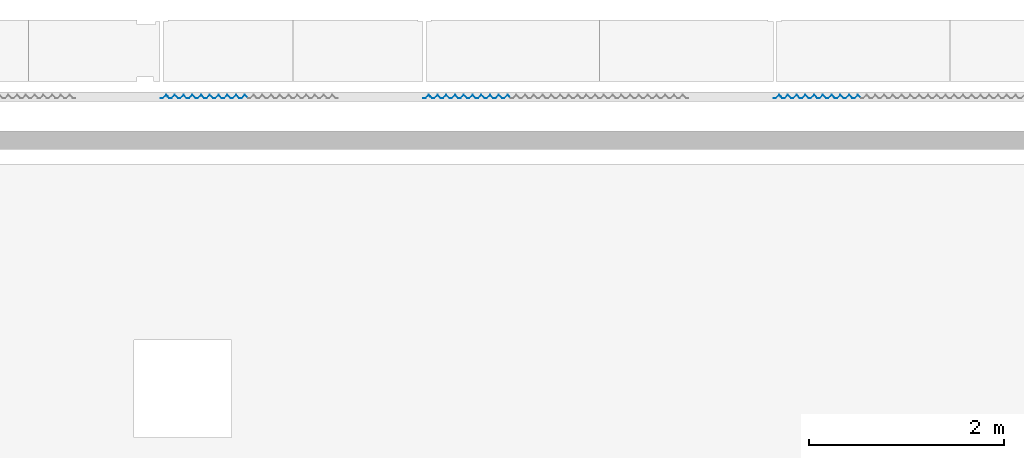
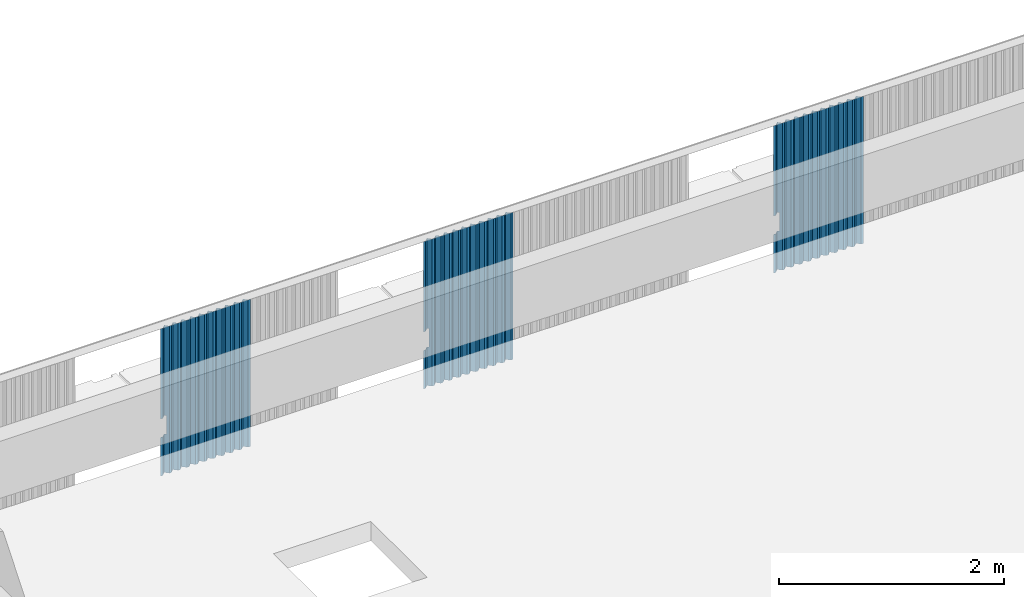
# One storey, part 30 of 37: 3 walls.
"""IFC4X3_ADD2 building model written with IfcOpenShell, lengths in millimetres."""

from ifc_helpers import new_model, si_unit, direction, frame, origin_with_axes, place, context, subcontext, project, spatial, polygons, element, save


model = new_model("IFC4X3_ADD2")

# Units and contexts
model_context = context("Model", 3, precision=1e-05, world=origin_with_axes(), true_north=direction((0.0, 1.0)))
body_context = subcontext(model_context, "Body", "Model", "MODEL_VIEW")
ifc_project = project(units=[si_unit("LENGTHUNIT", "METRE", prefix="MILLI"), si_unit("AREAUNIT", "SQUARE_METRE"), si_unit("VOLUMEUNIT", "CUBIC_METRE"), si_unit("PLANEANGLEUNIT", "RADIAN"), si_unit("TIMEUNIT", "SECOND"), si_unit("MASSUNIT", "GRAM")], contexts=[model_context])

# Site, building, storey
site_placement = place(None, origin_with_axes())
site = spatial("IfcSite", under=ifc_project, at=site_placement, Name="Site", CompositionType="ELEMENT")
building_placement = place(site_placement, origin_with_axes())
building = spatial("IfcBuilding", under=site, at=building_placement, Name="IFC Building Story")
storey_placement = place(building_placement, frame((0.0, 0.0, 14400.0), z_axis=(0.0, 0.0, 1.0), x_axis=(1.0, 0.0, 0.0)))
storey = spatial("IfcBuildingStorey", under=building, at=storey_placement, Name="040", Elevation=14400.0)

# Walls
wall_1_placement = place(storey_placement, frame((0.0, 0.0, -14400.0), z_axis=(0.0, 0.0, 1.0), x_axis=(1.0, 0.0, 0.0)))
element("IfcWall", 1, at=wall_1_placement, inside=storey, Name="BB_07.10_Gevelbekleding_PuntProfiel, 900 mm, console rechts_GMO:900 x 1600 mm", ObjectType="BB_07.10_Gevelbekleding_PuntProfiel, 900 mm, console rechts_GMO:900 x 1600 mm", PredefinedType="NOTDEFINED", context=body_context, shape_type="Tessellation", body=[
    polygons([(-27804.99999999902, 45734.99999999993, 14060.0), (-27804.99999999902, 45733.58578643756, 14060.0), (-27819.99999999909, 45748.58578643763, 14060.0), (-27853.58578643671, 45715.0, 14060.0), (-27876.4142135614, 45715.0, 14060.0), (-27875.99999999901, 45716.0, 14060.0), (-27853.9999999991, 45716.0, 14060.0), (-27819.99999999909, 45750.00000000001, 14060.0), (-27804.99999999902, 45734.99999999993, 13860.0), (-27804.99999999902, 45733.58578643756, 13860.0), (-27819.99999999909, 45750.0, 13860.0), (-27853.9999999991, 45715.99999999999, 13860.0), (-27875.99999999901, 45716.0, 13860.0), (-27876.4142135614, 45715.0, 13860.0), (-27853.58578643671, 45715.0, 13860.0), (-27819.99999999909, 45748.58578643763, 13860.0), (-27043.99999999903, 45716.0, 15040.0), (-27065.99999999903, 45716.0, 15040.0), (-27099.99999999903, 45750.0, 15040.0), (-27133.99999999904, 45716.0, 15040.0), (-27155.99999999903, 45716.0, 15040.0), (-27189.99999999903, 45750.0, 15040.0), (-27223.99999999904, 45716.0, 15040.0), (-27245.99999999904, 45716.0, 15040.0), (-27279.99999999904, 45750.00000000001, 15040.0), (-27313.99999999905, 45716.0, 15040.0), (-27335.99999999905, 45716.0, 15040.0), (-27369.99999999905, 45750.00000000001, 15040.0), (-27403.99999999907, 45716.0, 15040.0), (-27425.99999999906, 45716.0, 15040.0), (-27459.99999999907, 45750.00000000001, 15040.0), (-27493.99999999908, 45716.0, 15040.0), (-27515.99999999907, 45716.0, 15040.0), (-27549.99999999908, 45750.00000000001, 15040.0), (-27583.99999999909, 45716.0, 15040.0), (-27605.99999999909, 45716.0, 15040.0), (-27639.99999999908, 45750.00000000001, 15040.0), (-27673.99999999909, 45716.0, 15040.0), (-27695.99999999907, 45716.0, 15040.0), (-27729.99999999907, 45750.00000000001, 15040.0), (-27763.99999999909, 45716.0, 15040.0), (-27785.99999999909, 45716.0, 15040.0), (-27819.99999999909, 45750.00000000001, 15040.0), (-27853.9999999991, 45716.0, 15040.0), (-27875.99999999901, 45716.0, 15040.0), (-27876.4142135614, 45715.00000000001, 15040.0), (-27853.58578643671, 45715.00000000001, 15040.0), (-27819.99999999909, 45748.58578643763, 15040.0), (-27786.41421356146, 45715.00000000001, 15040.0), (-27763.5857864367, 45715.00000000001, 15040.0), (-27729.99999999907, 45748.58578643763, 15040.0), (-27696.41421356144, 45715.00000000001, 15040.0), (-27673.58578643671, 45715.00000000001, 15040.0), (-27639.99999999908, 45748.58578643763, 15040.0), (-27606.41421356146, 45715.00000000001, 15040.0), (-27583.5857864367, 45715.00000000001, 15040.0), (-27549.99999999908, 45748.58578643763, 15040.0), (-27516.41421356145, 45715.00000000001, 15040.0), (-27493.58578643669, 45715.00000000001, 15040.0), (-27459.99999999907, 45748.58578643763, 15040.0), (-27426.41421356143, 45715.00000000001, 15040.0), (-27403.58578643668, 45715.00000000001, 15040.0), (-27369.99999999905, 45748.58578643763, 15040.0), (-27336.41421356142, 45715.00000000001, 15040.0), (-27313.58578643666, 45715.00000000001, 15040.0), (-27279.99999999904, 45748.58578643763, 15040.0), (-27246.41421356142, 45715.00000000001, 15040.0), (-27223.58578643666, 45715.00000000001, 15040.0), (-27189.99999999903, 45748.58578643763, 15040.0), (-27156.41421356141, 45715.0, 15040.0), (-27133.58578643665, 45715.0, 15040.0), (-27099.99999999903, 45748.58578643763, 15040.0), (-27066.41421356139, 45715.0, 15040.0), (-27043.58578643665, 45715.0, 15040.0), (-27009.99999999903, 45748.58578643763, 15040.0), (-26976.41421356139, 45715.0, 15040.0), (-26953.58578643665, 45715.0, 15040.0), (-26953.99999999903, 45716.0, 15040.0), (-26975.99999999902, 45716.0, 15040.0), (-27009.99999999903, 45750.0, 15040.0), (-27043.99999999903, 45716.0, 13440.0), (-27009.99999999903, 45750.0, 13440.0), (-26975.99999999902, 45716.0, 13440.0), (-26953.99999999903, 45716.0, 13440.0), (-26953.58578643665, 45715.0, 13440.0), (-26976.41421356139, 45715.0, 13440.0), (-27009.99999999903, 45748.58578643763, 13440.0), (-27043.58578643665, 45715.0, 13440.0), (-27066.41421356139, 45715.0, 13440.0), (-27099.99999999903, 45748.58578643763, 13440.0), (-27133.58578643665, 45715.0, 13440.0), (-27156.41421356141, 45715.0, 13440.0), (-27189.99999999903, 45748.58578643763, 13440.0), (-27223.58578643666, 45715.00000000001, 13440.0), (-27246.41421356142, 45715.00000000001, 13440.0), (-27279.99999999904, 45748.58578643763, 13440.0), (-27313.58578643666, 45715.00000000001, 13440.0), (-27336.41421356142, 45715.00000000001, 13440.0), (-27369.99999999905, 45748.58578643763, 13440.0), (-27403.58578643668, 45715.00000000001, 13440.0), (-27426.41421356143, 45715.00000000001, 13440.0), (-27459.99999999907, 45748.58578643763, 13440.0), (-27493.58578643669, 45715.00000000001, 13440.0), (-27516.41421356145, 45715.00000000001, 13440.0), (-27549.99999999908, 45748.58578643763, 13440.0), (-27583.5857864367, 45715.00000000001, 13440.0), (-27606.41421356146, 45715.00000000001, 13440.0), (-27639.99999999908, 45748.58578643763, 13440.0), (-27673.58578643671, 45715.00000000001, 13440.0), (-27696.41421356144, 45715.00000000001, 13440.0), (-27729.99999999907, 45748.58578643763, 13440.0), (-27763.5857864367, 45715.00000000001, 13440.0), (-27786.41421356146, 45715.00000000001, 13440.0), (-27819.99999999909, 45748.58578643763, 13440.0), (-27853.58578643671, 45715.00000000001, 13440.0), (-27876.4142135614, 45715.00000000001, 13440.0), (-27875.99999999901, 45716.0, 13440.0), (-27853.9999999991, 45716.0, 13440.0), (-27819.99999999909, 45750.00000000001, 13440.0), (-27785.99999999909, 45716.0, 13440.0), (-27763.99999999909, 45716.0, 13440.0), (-27729.99999999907, 45750.00000000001, 13440.0), (-27695.99999999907, 45716.0, 13440.0), (-27673.99999999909, 45716.0, 13440.0), (-27639.99999999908, 45750.00000000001, 13440.0), (-27605.99999999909, 45716.0, 13440.0), (-27583.99999999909, 45716.0, 13440.0), (-27549.99999999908, 45750.00000000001, 13440.0), (-27515.99999999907, 45716.0, 13440.0), (-27493.99999999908, 45716.0, 13440.0), (-27459.99999999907, 45750.00000000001, 13440.0), (-27425.99999999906, 45716.0, 13440.0), (-27403.99999999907, 45716.0, 13440.0), (-27369.99999999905, 45750.00000000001, 13440.0), (-27335.99999999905, 45716.0, 13440.0), (-27313.99999999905, 45716.0, 13440.0), (-27279.99999999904, 45750.00000000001, 13440.0), (-27245.99999999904, 45716.0, 13440.0), (-27223.99999999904, 45716.0, 13440.0), (-27189.99999999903, 45750.0, 13440.0), (-27155.99999999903, 45716.0, 13440.0), (-27133.99999999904, 45716.0, 13440.0), (-27099.99999999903, 45750.0, 13440.0), (-27065.99999999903, 45716.0, 13440.0)], [[[7, 8, 3]], [[7, 3, 4]], [[4, 5, 6]], [[4, 6, 7]], [[8, 1, 2]], [[8, 2, 3]], [[2, 1, 9, 10]], [[12, 13, 14]], [[12, 14, 15]], [[16, 10, 9]], [[16, 9, 11]], [[11, 12, 15]], [[11, 15, 16]], [[44, 45, 46]], [[44, 46, 47]], [[48, 49, 42]], [[48, 42, 43]], [[43, 44, 47]], [[43, 47, 48]], [[49, 50, 41]], [[49, 41, 42]], [[51, 52, 39]], [[51, 39, 40]], [[40, 41, 50]], [[40, 50, 51]], [[52, 53, 38]], [[52, 38, 39]], [[54, 55, 36]], [[54, 36, 37]], [[37, 38, 53]], [[37, 53, 54]], [[55, 56, 35]], [[55, 35, 36]], [[57, 58, 33]], [[57, 33, 34]], [[34, 35, 56]], [[34, 56, 57]], [[58, 59, 32]], [[58, 32, 33]], [[60, 61, 30]], [[60, 30, 31]], [[31, 32, 59]], [[31, 59, 60]], [[61, 62, 29]], [[61, 29, 30]], [[63, 64, 27]], [[63, 27, 28]], [[28, 29, 62]], [[28, 62, 63]], [[64, 65, 26]], [[64, 26, 27]], [[66, 67, 24]], [[66, 24, 25]], [[25, 26, 65]], [[25, 65, 66]], [[67, 68, 23]], [[67, 23, 24]], [[69, 70, 21]], [[69, 21, 22]], [[22, 23, 68]], [[22, 68, 69]], [[70, 71, 20]], [[70, 20, 21]], [[72, 73, 18]], [[72, 18, 19]], [[19, 20, 71]], [[19, 71, 72]], [[73, 74, 17]], [[73, 17, 18]], [[79, 80, 75]], [[79, 75, 76]], [[76, 77, 78]], [[76, 78, 79]], [[80, 17, 74]], [[80, 74, 75]], [[83, 84, 85]], [[83, 85, 86]], [[87, 88, 81]], [[87, 81, 82]], [[82, 83, 86]], [[82, 86, 87]], [[118, 119, 114]], [[118, 114, 115]], [[115, 116, 117]], [[115, 117, 118]], [[121, 122, 111]], [[121, 111, 112]], [[112, 113, 120]], [[112, 120, 121]], [[113, 114, 119]], [[113, 119, 120]], [[124, 125, 108]], [[124, 108, 109]], [[109, 110, 123]], [[109, 123, 124]], [[110, 111, 122]], [[110, 122, 123]], [[127, 128, 105]], [[127, 105, 106]], [[106, 107, 126]], [[106, 126, 127]], [[107, 108, 125]], [[107, 125, 126]], [[130, 131, 102]], [[130, 102, 103]], [[103, 104, 129]], [[103, 129, 130]], [[104, 105, 128]], [[104, 128, 129]], [[133, 134, 99]], [[133, 99, 100]], [[100, 101, 132]], [[100, 132, 133]], [[101, 102, 131]], [[101, 131, 132]], [[136, 137, 96]], [[136, 96, 97]], [[97, 98, 135]], [[97, 135, 136]], [[98, 99, 134]], [[98, 134, 135]], [[139, 140, 93]], [[139, 93, 94]], [[94, 95, 138]], [[94, 138, 139]], [[95, 96, 137]], [[95, 137, 138]], [[142, 143, 90]], [[142, 90, 91]], [[91, 92, 141]], [[91, 141, 142]], [[92, 93, 140]], [[92, 140, 141]], [[144, 81, 88]], [[144, 88, 89]], [[89, 90, 143]], [[89, 143, 144]], [[18, 17, 81, 144]], [[19, 18, 144, 143]], [[20, 19, 143, 142]], [[21, 20, 142, 141]], [[22, 21, 141, 140]], [[23, 22, 140, 139]], [[24, 23, 139, 138]], [[25, 24, 138, 137]], [[26, 25, 137, 136]], [[27, 26, 136, 135]], [[28, 27, 135, 134]], [[29, 28, 134, 133]], [[30, 29, 133, 132]], [[31, 30, 132, 131]], [[32, 31, 131, 130]], [[33, 32, 130, 129]], [[34, 33, 129, 128]], [[35, 34, 128, 127]], [[36, 35, 127, 126]], [[37, 36, 126, 125]], [[38, 37, 125, 124]], [[54, 53, 109, 108]], [[55, 54, 108, 107]], [[56, 55, 107, 106]], [[57, 56, 106, 105]], [[58, 57, 105, 104]], [[59, 58, 104, 103]], [[60, 59, 103, 102]], [[61, 60, 102, 101]], [[62, 61, 101, 100]], [[63, 62, 100, 99]], [[64, 63, 99, 98]], [[65, 64, 98, 97]], [[66, 65, 97, 96]], [[67, 66, 96, 95]], [[68, 67, 95, 94]], [[69, 68, 94, 93]], [[70, 69, 93, 92]], [[71, 70, 92, 91]], [[72, 71, 91, 90]], [[73, 72, 90, 89]], [[74, 73, 89, 88]], [[80, 79, 83, 82]], [[17, 80, 82, 81]], [[39, 38, 124, 123]], [[40, 39, 123, 122]], [[41, 40, 122, 121]], [[42, 41, 121, 120]], [[1, 8, 43]], [[1, 43, 42]], [[42, 9, 1]], [[42, 120, 9]], [[120, 119, 11]], [[120, 11, 9]], [[44, 43, 8, 7]], [[45, 44, 7, 6]], [[47, 46, 5, 4]], [[48, 47, 4, 3]], [[10, 16, 114]], [[10, 114, 113]], [[113, 2, 10]], [[2, 113, 49]], [[49, 48, 2]], [[48, 3, 2]], [[50, 49, 113, 112]], [[51, 50, 112, 111]], [[52, 51, 111, 110]], [[53, 52, 110, 109]], [[75, 74, 88, 87]], [[76, 75, 87, 86]], [[46, 45, 6, 5]], [[77, 76, 86, 85]], [[78, 77, 85, 84]], [[79, 78, 84, 83]], [[117, 116, 14, 13]], [[115, 114, 16, 15]], [[116, 115, 15, 14]], [[118, 117, 13, 12]], [[119, 118, 12, 11]]]),
])
wall_2_placement = place(storey_placement, frame((0.0, 0.0, -14400.0), z_axis=(0.0, 0.0, 1.0), x_axis=(1.0, 0.0, 0.0)))
element("IfcWall", 2, at=wall_2_placement, inside=storey, Name="BB_07.10_Gevelbekleding_PuntProfiel, 900 mm, console rechts_GMO:900 x 1600 mm", ObjectType="BB_07.10_Gevelbekleding_PuntProfiel, 900 mm, console rechts_GMO:900 x 1600 mm", PredefinedType="NOTDEFINED", context=body_context, shape_type="Tessellation", body=[
    polygons([(-25104.99999999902, 45734.99999999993, 14060.0), (-25104.99999999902, 45733.58578643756, 14060.0), (-25119.99999999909, 45748.58578643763, 14060.0), (-25153.58578643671, 45715.0, 14060.0), (-25176.4142135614, 45715.00000000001, 14060.0), (-25175.99999999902, 45716.0, 14060.0), (-25153.9999999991, 45715.99999999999, 14060.0), (-25119.99999999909, 45750.0, 14060.0), (-25104.99999999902, 45734.99999999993, 13860.0), (-25104.99999999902, 45733.58578643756, 13860.0), (-25119.99999999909, 45750.00000000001, 13860.0), (-25153.9999999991, 45716.0, 13860.0), (-25175.99999999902, 45716.0, 13860.0), (-25176.4142135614, 45715.0, 13860.0), (-25153.58578643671, 45715.0, 13860.0), (-25119.99999999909, 45748.58578643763, 13860.0), (-24343.99999999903, 45716.0, 15040.0), (-24365.99999999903, 45716.0, 15040.0), (-24399.99999999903, 45750.0, 15040.0), (-24433.99999999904, 45716.0, 15040.0), (-24455.99999999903, 45716.0, 15040.0), (-24489.99999999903, 45750.0, 15040.0), (-24523.99999999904, 45716.0, 15040.0), (-24545.99999999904, 45716.0, 15040.0), (-24579.99999999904, 45750.00000000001, 15040.0), (-24613.99999999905, 45716.0, 15040.0), (-24635.99999999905, 45716.0, 15040.0), (-24669.99999999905, 45750.00000000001, 15040.0), (-24703.99999999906, 45716.0, 15040.0), (-24725.99999999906, 45716.0, 15040.0), (-24759.99999999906, 45750.00000000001, 15040.0), (-24793.99999999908, 45716.0, 15040.0), (-24815.99999999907, 45716.0, 15040.0), (-24849.99999999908, 45750.00000000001, 15040.0), (-24883.99999999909, 45716.0, 15040.0), (-24905.99999999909, 45716.0, 15040.0), (-24939.99999999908, 45750.00000000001, 15040.0), (-24973.9999999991, 45716.0, 15040.0), (-24995.99999999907, 45716.0, 15040.0), (-25029.99999999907, 45750.00000000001, 15040.0), (-25063.99999999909, 45716.0, 15040.0), (-25085.99999999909, 45716.0, 15040.0), (-25119.99999999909, 45750.00000000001, 15040.0), (-25153.9999999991, 45716.0, 15040.0), (-25175.99999999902, 45716.0, 15040.0), (-25176.4142135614, 45715.00000000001, 15040.0), (-25153.58578643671, 45715.00000000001, 15040.0), (-25119.99999999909, 45748.58578643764, 15040.0), (-25086.41421356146, 45715.00000000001, 15040.0), (-25063.5857864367, 45715.00000000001, 15040.0), (-25029.99999999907, 45748.58578643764, 15040.0), (-24996.41421356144, 45715.00000000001, 15040.0), (-24973.58578643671, 45715.00000000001, 15040.0), (-24939.99999999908, 45748.58578643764, 15040.0), (-24906.41421356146, 45715.00000000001, 15040.0), (-24883.5857864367, 45715.00000000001, 15040.0), (-24849.99999999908, 45748.58578643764, 15040.0), (-24816.41421356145, 45715.00000000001, 15040.0), (-24793.58578643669, 45715.00000000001, 15040.0), (-24759.99999999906, 45748.58578643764, 15040.0), (-24726.41421356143, 45715.00000000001, 15040.0), (-24703.58578643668, 45715.00000000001, 15040.0), (-24669.99999999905, 45748.58578643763, 15040.0), (-24636.41421356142, 45715.00000000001, 15040.0), (-24613.58578643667, 45715.00000000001, 15040.0), (-24579.99999999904, 45748.58578643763, 15040.0), (-24546.41421356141, 45715.00000000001, 15040.0), (-24523.58578643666, 45715.00000000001, 15040.0), (-24489.99999999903, 45748.58578643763, 15040.0), (-24456.41421356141, 45715.0, 15040.0), (-24433.58578643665, 45715.0, 15040.0), (-24399.99999999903, 45748.58578643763, 15040.0), (-24366.41421356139, 45715.0, 15040.0), (-24343.58578643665, 45715.0, 15040.0), (-24309.99999999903, 45748.58578643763, 15040.0), (-24276.4142135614, 45715.0, 15040.0), (-24253.58578643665, 45715.0, 15040.0), (-24253.99999999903, 45716.0, 15040.0), (-24275.99999999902, 45716.0, 15040.0), (-24309.99999999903, 45750.0, 15040.0), (-24343.99999999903, 45716.0, 13440.0), (-24309.99999999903, 45750.0, 13440.0), (-24275.99999999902, 45716.0, 13440.0), (-24253.99999999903, 45716.0, 13440.0), (-24253.58578643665, 45715.0, 13440.0), (-24276.4142135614, 45715.0, 13440.0), (-24309.99999999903, 45748.58578643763, 13440.0), (-24343.58578643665, 45715.0, 13440.0), (-24366.41421356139, 45715.0, 13440.0), (-24399.99999999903, 45748.58578643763, 13440.0), (-24433.58578643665, 45715.0, 13440.0), (-24456.41421356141, 45715.0, 13440.0), (-24489.99999999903, 45748.58578643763, 13440.0), (-24523.58578643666, 45715.00000000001, 13440.0), (-24546.41421356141, 45715.00000000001, 13440.0), (-24579.99999999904, 45748.58578643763, 13440.0), (-24613.58578643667, 45715.00000000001, 13440.0), (-24636.41421356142, 45715.00000000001, 13440.0), (-24669.99999999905, 45748.58578643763, 13440.0), (-24703.58578643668, 45715.00000000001, 13440.0), (-24726.41421356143, 45715.00000000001, 13440.0), (-24759.99999999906, 45748.58578643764, 13440.0), (-24793.58578643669, 45715.00000000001, 13440.0), (-24816.41421356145, 45715.00000000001, 13440.0), (-24849.99999999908, 45748.58578643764, 13440.0), (-24883.5857864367, 45715.00000000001, 13440.0), (-24906.41421356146, 45715.00000000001, 13440.0), (-24939.99999999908, 45748.58578643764, 13440.0), (-24973.58578643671, 45715.00000000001, 13440.0), (-24996.41421356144, 45715.00000000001, 13440.0), (-25029.99999999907, 45748.58578643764, 13440.0), (-25063.5857864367, 45715.00000000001, 13440.0), (-25086.41421356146, 45715.00000000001, 13440.0), (-25119.99999999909, 45748.58578643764, 13440.0), (-25153.58578643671, 45715.00000000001, 13440.0), (-25176.4142135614, 45715.00000000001, 13440.0), (-25175.99999999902, 45716.0, 13440.0), (-25153.9999999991, 45716.0, 13440.0), (-25119.99999999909, 45750.00000000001, 13440.0), (-25085.99999999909, 45716.0, 13440.0), (-25063.99999999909, 45716.0, 13440.0), (-25029.99999999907, 45750.00000000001, 13440.0), (-24995.99999999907, 45716.0, 13440.0), (-24973.9999999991, 45716.0, 13440.0), (-24939.99999999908, 45750.00000000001, 13440.0), (-24905.99999999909, 45716.0, 13440.0), (-24883.99999999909, 45716.0, 13440.0), (-24849.99999999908, 45750.00000000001, 13440.0), (-24815.99999999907, 45716.0, 13440.0), (-24793.99999999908, 45716.0, 13440.0), (-24759.99999999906, 45750.00000000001, 13440.0), (-24725.99999999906, 45716.0, 13440.0), (-24703.99999999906, 45716.0, 13440.0), (-24669.99999999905, 45750.00000000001, 13440.0), (-24635.99999999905, 45716.0, 13440.0), (-24613.99999999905, 45716.0, 13440.0), (-24579.99999999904, 45750.00000000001, 13440.0), (-24545.99999999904, 45716.0, 13440.0), (-24523.99999999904, 45716.0, 13440.0), (-24489.99999999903, 45750.0, 13440.0), (-24455.99999999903, 45716.0, 13440.0), (-24433.99999999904, 45716.0, 13440.0), (-24399.99999999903, 45750.0, 13440.0), (-24365.99999999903, 45716.0, 13440.0)], [[[7, 8, 3]], [[7, 3, 4]], [[4, 5, 6]], [[4, 6, 7]], [[8, 1, 2]], [[8, 2, 3]], [[2, 1, 9, 10]], [[12, 13, 14]], [[12, 14, 15]], [[16, 10, 9]], [[16, 9, 11]], [[11, 12, 15]], [[11, 15, 16]], [[44, 45, 46]], [[44, 46, 47]], [[48, 49, 42]], [[48, 42, 43]], [[43, 44, 47]], [[43, 47, 48]], [[49, 50, 41]], [[49, 41, 42]], [[51, 52, 39]], [[51, 39, 40]], [[40, 41, 50]], [[40, 50, 51]], [[52, 53, 38]], [[52, 38, 39]], [[54, 55, 36]], [[54, 36, 37]], [[37, 38, 53]], [[37, 53, 54]], [[55, 56, 35]], [[55, 35, 36]], [[57, 58, 33]], [[57, 33, 34]], [[34, 35, 56]], [[34, 56, 57]], [[58, 59, 32]], [[58, 32, 33]], [[60, 61, 30]], [[60, 30, 31]], [[31, 32, 59]], [[31, 59, 60]], [[61, 62, 29]], [[61, 29, 30]], [[63, 64, 27]], [[63, 27, 28]], [[28, 29, 62]], [[28, 62, 63]], [[64, 65, 26]], [[64, 26, 27]], [[66, 67, 24]], [[66, 24, 25]], [[25, 26, 65]], [[25, 65, 66]], [[67, 68, 23]], [[67, 23, 24]], [[69, 70, 21]], [[69, 21, 22]], [[22, 23, 68]], [[22, 68, 69]], [[70, 71, 20]], [[70, 20, 21]], [[72, 73, 18]], [[72, 18, 19]], [[19, 20, 71]], [[19, 71, 72]], [[73, 74, 17]], [[73, 17, 18]], [[79, 80, 75]], [[79, 75, 76]], [[76, 77, 78]], [[76, 78, 79]], [[80, 17, 74]], [[80, 74, 75]], [[83, 84, 85]], [[83, 85, 86]], [[87, 88, 81]], [[87, 81, 82]], [[82, 83, 86]], [[82, 86, 87]], [[118, 119, 114]], [[118, 114, 115]], [[115, 116, 117]], [[115, 117, 118]], [[121, 122, 111]], [[121, 111, 112]], [[112, 113, 120]], [[112, 120, 121]], [[113, 114, 119]], [[113, 119, 120]], [[124, 125, 108]], [[124, 108, 109]], [[109, 110, 123]], [[109, 123, 124]], [[110, 111, 122]], [[110, 122, 123]], [[127, 128, 105]], [[127, 105, 106]], [[106, 107, 126]], [[106, 126, 127]], [[107, 108, 125]], [[107, 125, 126]], [[130, 131, 102]], [[130, 102, 103]], [[103, 104, 129]], [[103, 129, 130]], [[104, 105, 128]], [[104, 128, 129]], [[133, 134, 99]], [[133, 99, 100]], [[100, 101, 132]], [[100, 132, 133]], [[101, 102, 131]], [[101, 131, 132]], [[136, 137, 96]], [[136, 96, 97]], [[97, 98, 135]], [[97, 135, 136]], [[98, 99, 134]], [[98, 134, 135]], [[139, 140, 93]], [[139, 93, 94]], [[94, 95, 138]], [[94, 138, 139]], [[95, 96, 137]], [[95, 137, 138]], [[142, 143, 90]], [[142, 90, 91]], [[91, 92, 141]], [[91, 141, 142]], [[92, 93, 140]], [[92, 140, 141]], [[144, 81, 88]], [[144, 88, 89]], [[89, 90, 143]], [[89, 143, 144]], [[18, 17, 81, 144]], [[19, 18, 144, 143]], [[20, 19, 143, 142]], [[21, 20, 142, 141]], [[22, 21, 141, 140]], [[23, 22, 140, 139]], [[24, 23, 139, 138]], [[25, 24, 138, 137]], [[26, 25, 137, 136]], [[27, 26, 136, 135]], [[28, 27, 135, 134]], [[29, 28, 134, 133]], [[30, 29, 133, 132]], [[31, 30, 132, 131]], [[32, 31, 131, 130]], [[33, 32, 130, 129]], [[34, 33, 129, 128]], [[35, 34, 128, 127]], [[36, 35, 127, 126]], [[37, 36, 126, 125]], [[38, 37, 125, 124]], [[54, 53, 109, 108]], [[55, 54, 108, 107]], [[56, 55, 107, 106]], [[57, 56, 106, 105]], [[58, 57, 105, 104]], [[59, 58, 104, 103]], [[60, 59, 103, 102]], [[61, 60, 102, 101]], [[62, 61, 101, 100]], [[63, 62, 100, 99]], [[64, 63, 99, 98]], [[65, 64, 98, 97]], [[66, 65, 97, 96]], [[67, 66, 96, 95]], [[68, 67, 95, 94]], [[69, 68, 94, 93]], [[70, 69, 93, 92]], [[71, 70, 92, 91]], [[72, 71, 91, 90]], [[73, 72, 90, 89]], [[74, 73, 89, 88]], [[80, 79, 83, 82]], [[17, 80, 82, 81]], [[39, 38, 124, 123]], [[40, 39, 123, 122]], [[41, 40, 122, 121]], [[42, 41, 121, 120]], [[1, 8, 43]], [[1, 43, 42]], [[42, 9, 1]], [[42, 120, 9]], [[120, 119, 11]], [[120, 11, 9]], [[44, 43, 8, 7]], [[45, 44, 7, 6]], [[47, 46, 5, 4]], [[48, 47, 4, 3]], [[10, 16, 114]], [[10, 114, 113]], [[113, 2, 10]], [[2, 113, 49]], [[49, 48, 2]], [[48, 3, 2]], [[50, 49, 113, 112]], [[51, 50, 112, 111]], [[52, 51, 111, 110]], [[53, 52, 110, 109]], [[75, 74, 88, 87]], [[76, 75, 87, 86]], [[46, 45, 6, 5]], [[77, 76, 86, 85]], [[78, 77, 85, 84]], [[79, 78, 84, 83]], [[117, 116, 14, 13]], [[115, 114, 16, 15]], [[116, 115, 15, 14]], [[118, 117, 13, 12]], [[119, 118, 12, 11]]]),
])
wall_3_placement = place(storey_placement, frame((0.0, 0.0, -14400.0), z_axis=(0.0, 0.0, 1.0), x_axis=(1.0, 0.0, 0.0)))
element("IfcWall", 3, at=wall_3_placement, inside=storey, Name="BB_07.10_Gevelbekleding_PuntProfiel, 900 mm, console rechts_GMO:900 x 1600 mm", ObjectType="BB_07.10_Gevelbekleding_PuntProfiel, 900 mm, console rechts_GMO:900 x 1600 mm", PredefinedType="NOTDEFINED", context=body_context, shape_type="Tessellation", body=[
    polygons([(-21504.99999999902, 45734.99999999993, 14060.0), (-21504.99999999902, 45733.58578643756, 14060.0), (-21519.99999999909, 45748.58578643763, 14060.0), (-21553.58578643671, 45715.0, 14060.0), (-21576.4142135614, 45715.0, 14060.0), (-21575.99999999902, 45716.0, 14060.0), (-21553.9999999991, 45716.0, 14060.0), (-21519.99999999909, 45750.0, 14060.0), (-21504.99999999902, 45734.99999999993, 13860.0), (-21504.99999999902, 45733.58578643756, 13860.0), (-21519.99999999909, 45750.0, 13860.0), (-21553.9999999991, 45716.0, 13860.0), (-21575.99999999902, 45716.0, 13860.0), (-21576.4142135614, 45715.00000000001, 13860.0), (-21553.58578643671, 45715.0, 13860.0), (-21519.99999999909, 45748.58578643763, 13860.0), (-20743.99999999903, 45716.0, 15040.0), (-20765.99999999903, 45716.0, 15040.0), (-20799.99999999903, 45750.0, 15040.0), (-20833.99999999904, 45716.0, 15040.0), (-20855.99999999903, 45716.0, 15040.0), (-20889.99999999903, 45750.0, 15040.0), (-20923.99999999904, 45716.0, 15040.0), (-20945.99999999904, 45716.0, 15040.0), (-20979.99999999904, 45750.0, 15040.0), (-21013.99999999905, 45716.0, 15040.0), (-21035.99999999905, 45716.0, 15040.0), (-21069.99999999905, 45750.0, 15040.0), (-21103.99999999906, 45716.0, 15040.0), (-21125.99999999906, 45716.0, 15040.0), (-21159.99999999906, 45750.0, 15040.0), (-21193.99999999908, 45716.0, 15040.0), (-21215.99999999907, 45716.0, 15040.0), (-21249.99999999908, 45750.0, 15040.0), (-21283.99999999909, 45716.0, 15040.0), (-21305.99999999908, 45716.0, 15040.0), (-21339.99999999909, 45750.0, 15040.0), (-21373.9999999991, 45716.0, 15040.0), (-21395.99999999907, 45716.0, 15040.0), (-21429.99999999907, 45750.0, 15040.0), (-21463.99999999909, 45716.0, 15040.0), (-21485.99999999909, 45716.0, 15040.0), (-21519.99999999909, 45750.0, 15040.0), (-21553.9999999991, 45716.0, 15040.0), (-21575.99999999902, 45716.0, 15040.0), (-21576.4142135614, 45715.00000000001, 15040.0), (-21553.58578643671, 45715.00000000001, 15040.0), (-21519.99999999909, 45748.58578643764, 15040.0), (-21486.41421356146, 45715.00000000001, 15040.0), (-21463.5857864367, 45715.00000000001, 15040.0), (-21429.99999999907, 45748.58578643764, 15040.0), (-21396.41421356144, 45715.00000000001, 15040.0), (-21373.58578643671, 45715.00000000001, 15040.0), (-21339.99999999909, 45748.58578643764, 15040.0), (-21306.41421356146, 45715.00000000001, 15040.0), (-21283.5857864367, 45715.00000000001, 15040.0), (-21249.99999999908, 45748.58578643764, 15040.0), (-21216.41421356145, 45715.00000000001, 15040.0), (-21193.58578643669, 45715.00000000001, 15040.0), (-21159.99999999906, 45748.58578643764, 15040.0), (-21126.41421356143, 45715.00000000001, 15040.0), (-21103.58578643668, 45715.00000000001, 15040.0), (-21069.99999999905, 45748.58578643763, 15040.0), (-21036.41421356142, 45715.00000000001, 15040.0), (-21013.58578643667, 45715.00000000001, 15040.0), (-20979.99999999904, 45748.58578643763, 15040.0), (-20946.41421356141, 45715.00000000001, 15040.0), (-20923.58578643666, 45715.00000000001, 15040.0), (-20889.99999999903, 45748.58578643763, 15040.0), (-20856.41421356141, 45715.0, 15040.0), (-20833.58578643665, 45715.0, 15040.0), (-20799.99999999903, 45748.58578643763, 15040.0), (-20766.41421356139, 45715.0, 15040.0), (-20743.58578643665, 45715.0, 15040.0), (-20709.99999999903, 45748.58578643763, 15040.0), (-20676.41421356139, 45715.0, 15040.0), (-20653.58578643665, 45715.0, 15040.0), (-20653.99999999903, 45716.0, 15040.0), (-20675.99999999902, 45716.0, 15040.0), (-20709.99999999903, 45750.0, 15040.0), (-20743.99999999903, 45716.0, 13440.0), (-20709.99999999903, 45750.0, 13440.0), (-20675.99999999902, 45716.0, 13440.0), (-20653.99999999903, 45716.0, 13440.0), (-20653.58578643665, 45715.0, 13440.0), (-20676.41421356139, 45715.0, 13440.0), (-20709.99999999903, 45748.58578643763, 13440.0), (-20743.58578643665, 45715.0, 13440.0), (-20766.41421356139, 45715.0, 13440.0), (-20799.99999999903, 45748.58578643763, 13440.0), (-20833.58578643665, 45715.0, 13440.0), (-20856.41421356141, 45715.0, 13440.0), (-20889.99999999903, 45748.58578643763, 13440.0), (-20923.58578643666, 45715.00000000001, 13440.0), (-20946.41421356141, 45715.00000000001, 13440.0), (-20979.99999999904, 45748.58578643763, 13440.0), (-21013.58578643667, 45715.00000000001, 13440.0), (-21036.41421356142, 45715.00000000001, 13440.0), (-21069.99999999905, 45748.58578643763, 13440.0), (-21103.58578643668, 45715.00000000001, 13440.0), (-21126.41421356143, 45715.00000000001, 13440.0), (-21159.99999999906, 45748.58578643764, 13440.0), (-21193.58578643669, 45715.00000000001, 13440.0), (-21216.41421356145, 45715.00000000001, 13440.0), (-21249.99999999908, 45748.58578643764, 13440.0), (-21283.5857864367, 45715.00000000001, 13440.0), (-21306.41421356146, 45715.00000000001, 13440.0), (-21339.99999999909, 45748.58578643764, 13440.0), (-21373.58578643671, 45715.00000000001, 13440.0), (-21396.41421356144, 45715.00000000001, 13440.0), (-21429.99999999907, 45748.58578643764, 13440.0), (-21463.5857864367, 45715.00000000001, 13440.0), (-21486.41421356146, 45715.00000000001, 13440.0), (-21519.99999999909, 45748.58578643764, 13440.0), (-21553.58578643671, 45715.00000000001, 13440.0), (-21576.4142135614, 45715.00000000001, 13440.0), (-21575.99999999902, 45716.0, 13440.0), (-21553.9999999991, 45716.0, 13440.0), (-21519.99999999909, 45750.0, 13440.0), (-21485.99999999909, 45716.0, 13440.0), (-21463.99999999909, 45716.0, 13440.0), (-21429.99999999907, 45750.0, 13440.0), (-21395.99999999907, 45716.0, 13440.0), (-21373.9999999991, 45716.0, 13440.0), (-21339.99999999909, 45750.0, 13440.0), (-21305.99999999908, 45716.0, 13440.0), (-21283.99999999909, 45716.0, 13440.0), (-21249.99999999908, 45750.0, 13440.0), (-21215.99999999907, 45716.0, 13440.0), (-21193.99999999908, 45716.0, 13440.0), (-21159.99999999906, 45750.0, 13440.0), (-21125.99999999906, 45716.0, 13440.0), (-21103.99999999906, 45716.0, 13440.0), (-21069.99999999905, 45750.0, 13440.0), (-21035.99999999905, 45716.0, 13440.0), (-21013.99999999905, 45716.0, 13440.0), (-20979.99999999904, 45750.0, 13440.0), (-20945.99999999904, 45716.0, 13440.0), (-20923.99999999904, 45716.0, 13440.0), (-20889.99999999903, 45750.0, 13440.0), (-20855.99999999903, 45716.0, 13440.0), (-20833.99999999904, 45716.0, 13440.0), (-20799.99999999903, 45750.0, 13440.0), (-20765.99999999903, 45716.0, 13440.0)], [[[7, 8, 3]], [[7, 3, 4]], [[4, 5, 6]], [[4, 6, 7]], [[8, 1, 2]], [[8, 2, 3]], [[2, 1, 9, 10]], [[12, 13, 14]], [[12, 14, 15]], [[16, 10, 9]], [[16, 9, 11]], [[11, 12, 15]], [[11, 15, 16]], [[44, 45, 46]], [[44, 46, 47]], [[48, 49, 42]], [[48, 42, 43]], [[43, 44, 47]], [[43, 47, 48]], [[49, 50, 41]], [[49, 41, 42]], [[51, 52, 39]], [[51, 39, 40]], [[40, 41, 50]], [[40, 50, 51]], [[52, 53, 38]], [[52, 38, 39]], [[54, 55, 36]], [[54, 36, 37]], [[37, 38, 53]], [[37, 53, 54]], [[55, 56, 35]], [[55, 35, 36]], [[57, 58, 33]], [[57, 33, 34]], [[34, 35, 56]], [[34, 56, 57]], [[58, 59, 32]], [[58, 32, 33]], [[60, 61, 30]], [[60, 30, 31]], [[31, 32, 59]], [[31, 59, 60]], [[61, 62, 29]], [[61, 29, 30]], [[63, 64, 27]], [[63, 27, 28]], [[28, 29, 62]], [[28, 62, 63]], [[64, 65, 26]], [[64, 26, 27]], [[66, 67, 24]], [[66, 24, 25]], [[25, 26, 65]], [[25, 65, 66]], [[67, 68, 23]], [[67, 23, 24]], [[69, 70, 21]], [[69, 21, 22]], [[22, 23, 68]], [[22, 68, 69]], [[70, 71, 20]], [[70, 20, 21]], [[72, 73, 18]], [[72, 18, 19]], [[19, 20, 71]], [[19, 71, 72]], [[73, 74, 17]], [[73, 17, 18]], [[79, 80, 75]], [[79, 75, 76]], [[76, 77, 78]], [[76, 78, 79]], [[80, 17, 74]], [[80, 74, 75]], [[83, 84, 85]], [[83, 85, 86]], [[87, 88, 81]], [[87, 81, 82]], [[82, 83, 86]], [[82, 86, 87]], [[118, 119, 114]], [[118, 114, 115]], [[115, 116, 117]], [[115, 117, 118]], [[121, 122, 111]], [[121, 111, 112]], [[112, 113, 120]], [[112, 120, 121]], [[113, 114, 119]], [[113, 119, 120]], [[124, 125, 108]], [[124, 108, 109]], [[109, 110, 123]], [[109, 123, 124]], [[110, 111, 122]], [[110, 122, 123]], [[127, 128, 105]], [[127, 105, 106]], [[106, 107, 126]], [[106, 126, 127]], [[107, 108, 125]], [[107, 125, 126]], [[130, 131, 102]], [[130, 102, 103]], [[103, 104, 129]], [[103, 129, 130]], [[104, 105, 128]], [[104, 128, 129]], [[133, 134, 99]], [[133, 99, 100]], [[100, 101, 132]], [[100, 132, 133]], [[101, 102, 131]], [[101, 131, 132]], [[136, 137, 96]], [[136, 96, 97]], [[97, 98, 135]], [[97, 135, 136]], [[98, 99, 134]], [[98, 134, 135]], [[139, 140, 93]], [[139, 93, 94]], [[94, 95, 138]], [[94, 138, 139]], [[95, 96, 137]], [[95, 137, 138]], [[142, 143, 90]], [[142, 90, 91]], [[91, 92, 141]], [[91, 141, 142]], [[92, 93, 140]], [[92, 140, 141]], [[144, 81, 88]], [[144, 88, 89]], [[89, 90, 143]], [[89, 143, 144]], [[18, 17, 81, 144]], [[19, 18, 144, 143]], [[20, 19, 143, 142]], [[21, 20, 142, 141]], [[22, 21, 141, 140]], [[23, 22, 140, 139]], [[24, 23, 139, 138]], [[25, 24, 138, 137]], [[26, 25, 137, 136]], [[27, 26, 136, 135]], [[28, 27, 135, 134]], [[29, 28, 134, 133]], [[30, 29, 133, 132]], [[31, 30, 132, 131]], [[32, 31, 131, 130]], [[33, 32, 130, 129]], [[34, 33, 129, 128]], [[35, 34, 128, 127]], [[36, 35, 127, 126]], [[37, 36, 126, 125]], [[38, 37, 125, 124]], [[54, 53, 109, 108]], [[55, 54, 108, 107]], [[56, 55, 107, 106]], [[57, 56, 106, 105]], [[58, 57, 105, 104]], [[59, 58, 104, 103]], [[60, 59, 103, 102]], [[61, 60, 102, 101]], [[62, 61, 101, 100]], [[63, 62, 100, 99]], [[64, 63, 99, 98]], [[65, 64, 98, 97]], [[66, 65, 97, 96]], [[67, 66, 96, 95]], [[68, 67, 95, 94]], [[69, 68, 94, 93]], [[70, 69, 93, 92]], [[71, 70, 92, 91]], [[72, 71, 91, 90]], [[73, 72, 90, 89]], [[74, 73, 89, 88]], [[80, 79, 83, 82]], [[17, 80, 82, 81]], [[39, 38, 124, 123]], [[40, 39, 123, 122]], [[41, 40, 122, 121]], [[42, 41, 121, 120]], [[1, 8, 43]], [[1, 43, 42]], [[42, 9, 1]], [[42, 120, 9]], [[120, 119, 11]], [[120, 11, 9]], [[44, 43, 8, 7]], [[45, 44, 7, 6]], [[47, 46, 5, 4]], [[48, 47, 4, 3]], [[10, 16, 114]], [[10, 114, 113]], [[113, 2, 10]], [[2, 113, 49]], [[49, 48, 2]], [[48, 3, 2]], [[50, 49, 113, 112]], [[51, 50, 112, 111]], [[52, 51, 111, 110]], [[53, 52, 110, 109]], [[75, 74, 88, 87]], [[76, 75, 87, 86]], [[46, 45, 6, 5]], [[77, 76, 86, 85]], [[78, 77, 85, 84]], [[79, 78, 84, 83]], [[117, 116, 14, 13]], [[115, 114, 16, 15]], [[116, 115, 15, 14]], [[118, 117, 13, 12]], [[119, 118, 12, 11]]]),
])

save(model, "model.ifc")
